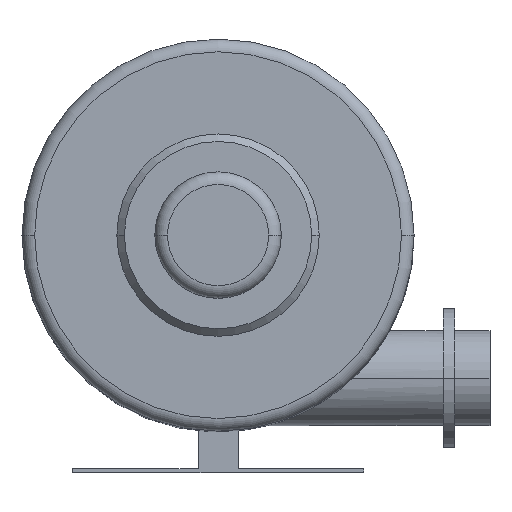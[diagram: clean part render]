
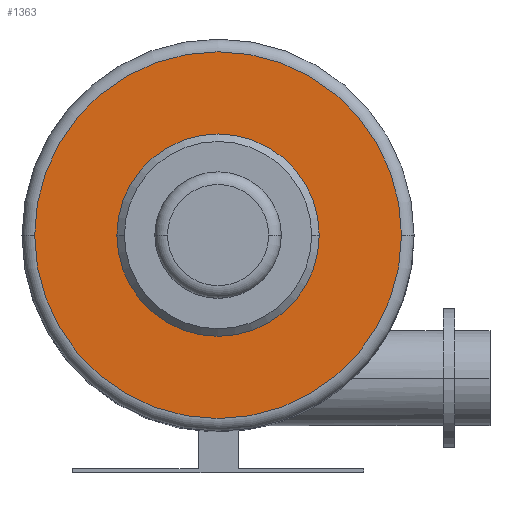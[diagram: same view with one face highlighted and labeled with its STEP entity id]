
A CAD part, top view. The second image highlights one B-rep face of the part: STEP entity #1363.
In plain terms, the highlighted planar face has unit normal (0, 0, 1).
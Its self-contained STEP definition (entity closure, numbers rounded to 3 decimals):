
#41 = EDGE_CURVE ( 'NONE', #1226, #83, #961, .T. ) ;
#83 = VERTEX_POINT ( 'NONE', #1574 ) ;
#91 = EDGE_CURVE ( 'NONE', #1326, #173, #824, .T. ) ;
#169 = CARTESIAN_POINT ( 'NONE',  ( 0., 0., 333. ) ) ;
#173 = VERTEX_POINT ( 'NONE', #1439 ) ;
#177 = CARTESIAN_POINT ( 'NONE',  ( 145., 0., 333. ) ) ;
#258 = CARTESIAN_POINT ( 'NONE',  ( 0., 0., 333. ) ) ;
#341 = DIRECTION ( 'NONE',  ( 1., 0., 0. ) ) ;
#371 = DIRECTION ( 'NONE',  ( 0., 0., 1. ) ) ;
#436 = EDGE_CURVE ( 'NONE', #83, #1226, #899, .T. ) ;
#446 = DIRECTION ( 'NONE',  ( 1., 0., 0. ) ) ;
#456 = EDGE_CURVE ( 'NONE', #173, #1326, #875, .T. ) ;
#603 = ORIENTED_EDGE ( 'NONE', *, *, #41, .T. ) ;
#632 = ORIENTED_EDGE ( 'NONE', *, *, #436, .T. ) ;
#636 = ORIENTED_EDGE ( 'NONE', *, *, #456, .F. ) ;
#659 = ORIENTED_EDGE ( 'NONE', *, *, #91, .F. ) ;
#729 = FACE_BOUND ( 'NONE', #1798, .T. ) ;
#737 = CARTESIAN_POINT ( 'NONE',  ( 0., 0., 333. ) ) ;
#824 = CIRCLE ( 'NONE', #1918, 80. ) ;
#866 = AXIS2_PLACEMENT_3D ( 'NONE', #737, #921, #2088 ) ;
#875 = CIRCLE ( 'NONE', #1543, 80. ) ;
#899 = CIRCLE ( 'NONE', #1546, 145. ) ;
#915 = CARTESIAN_POINT ( 'NONE',  ( 80., 0., 333. ) ) ;
#921 = DIRECTION ( 'NONE',  ( 0., 0., 1. ) ) ;
#961 = CIRCLE ( 'NONE', #1959, 145. ) ;
#987 = DIRECTION ( 'NONE',  ( 0., 0., 1. ) ) ;
#1226 = VERTEX_POINT ( 'NONE', #177 ) ;
#1326 = VERTEX_POINT ( 'NONE', #915 ) ;
#1363 = ADVANCED_FACE ( 'NONE', ( #2027, #729 ), #1928, .T. ) ;
#1387 = DIRECTION ( 'NONE',  ( 0., 0., 1. ) ) ;
#1417 = CARTESIAN_POINT ( 'NONE',  ( 0., 0., 333. ) ) ;
#1439 = CARTESIAN_POINT ( 'NONE',  ( -80., 0., 333. ) ) ;
#1484 = DIRECTION ( 'NONE',  ( 0., 0., 1. ) ) ;
#1543 = AXIS2_PLACEMENT_3D ( 'NONE', #258, #1484, #446 ) ;
#1546 = AXIS2_PLACEMENT_3D ( 'NONE', #1995, #987, #2144 ) ;
#1574 = CARTESIAN_POINT ( 'NONE',  ( -145., 0., 333. ) ) ;
#1589 = DIRECTION ( 'NONE',  ( 1., 0., 0. ) ) ;
#1798 = EDGE_LOOP ( 'NONE', ( #636, #659 ) ) ;
#1856 = EDGE_LOOP ( 'NONE', ( #603, #632 ) ) ;
#1918 = AXIS2_PLACEMENT_3D ( 'NONE', #1417, #371, #1589 ) ;
#1928 = PLANE ( 'NONE',  #866 ) ;
#1959 = AXIS2_PLACEMENT_3D ( 'NONE', #169, #1387, #341 ) ;
#1995 = CARTESIAN_POINT ( 'NONE',  ( 0., 0., 333. ) ) ;
#2027 = FACE_OUTER_BOUND ( 'NONE', #1856, .T. ) ;
#2088 = DIRECTION ( 'NONE',  ( 1., 0., 0. ) ) ;
#2144 = DIRECTION ( 'NONE',  ( 1., 0., 0. ) ) ;
